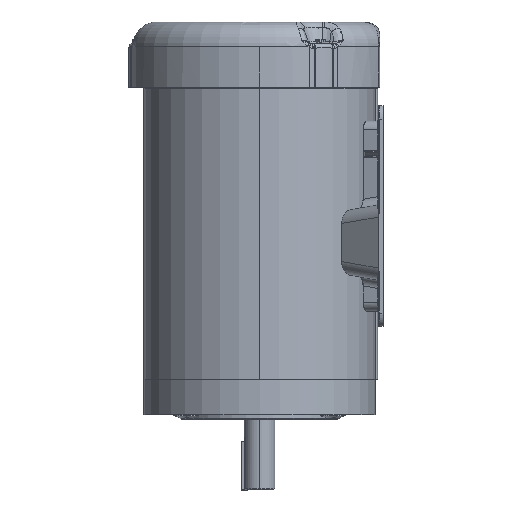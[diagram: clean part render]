
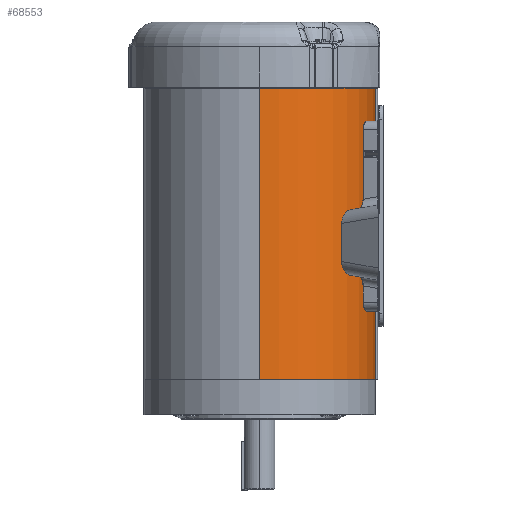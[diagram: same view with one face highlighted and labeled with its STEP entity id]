
A CAD part, left-side view. The second image highlights one B-rep face of the part: STEP entity #68553.
In plain terms, the highlighted cylindrical face has radius 83.21 mm (diameter 166.421 mm), a partial arc.
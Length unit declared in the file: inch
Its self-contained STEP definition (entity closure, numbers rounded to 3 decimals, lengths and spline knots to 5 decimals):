
#1517 = CARTESIAN_POINT ( 'NONE',  ( -3.276, 0., 11.37445 ) ) ;
#5328 = DIRECTION ( 'NONE',  ( 0., 0., -1. ) ) ;
#6295 = EDGE_LOOP ( 'NONE', ( #22627, #75002, #31725, #54849 ) ) ;
#7114 = VERTEX_POINT ( 'NONE', #34841 ) ;
#10385 = AXIS2_PLACEMENT_3D ( 'NONE', #44751, #5328, #65024 ) ;
#18035 = CARTESIAN_POINT ( 'NONE',  ( 0., 0., 3.12445 ) ) ;
#18500 = EDGE_CURVE ( 'NONE', #49157, #96412, #128459, .T. ) ;
#22627 = ORIENTED_EDGE ( 'NONE', *, *, #95684, .F. ) ;
#23498 = CARTESIAN_POINT ( 'NONE',  ( -0.09055, -3.27475, 11.56728 ) ) ;
#31725 = ORIENTED_EDGE ( 'NONE', *, *, #70558, .F. ) ;
#33417 = DIRECTION ( 'NONE',  ( 0., 0., -1. ) ) ;
#34797 = AXIS2_PLACEMENT_3D ( 'NONE', #56769, #75918, #52111 ) ;
#34841 = CARTESIAN_POINT ( 'NONE',  ( -0.09055, -3.27475, 11.37445 ) ) ;
#39280 = DIRECTION ( 'NONE',  ( 0., 0., 1. ) ) ;
#40670 = EDGE_CURVE ( 'NONE', #7114, #119418, #107055, .T. ) ;
#40806 = LINE ( 'NONE', #23498, #110410 ) ;
#44751 = CARTESIAN_POINT ( 'NONE',  ( 0., 0., 11.37445 ) ) ;
#49157 = VERTEX_POINT ( 'NONE', #65648 ) ;
#52111 = DIRECTION ( 'NONE',  ( 1., 0., 0. ) ) ;
#54849 = ORIENTED_EDGE ( 'NONE', *, *, #40670, .T. ) ;
#56769 = CARTESIAN_POINT ( 'NONE',  ( 0., 0., 3.12445 ) ) ;
#65024 = DIRECTION ( 'NONE',  ( -1., 0., 0. ) ) ;
#65648 = CARTESIAN_POINT ( 'NONE',  ( -0.09055, -3.27475, 3.12445 ) ) ;
#68553 = ADVANCED_FACE ( 'NONE', ( #73363 ), #96631, .T. ) ;
#70558 = EDGE_CURVE ( 'NONE', #7114, #49157, #40806, .T. ) ;
#73363 = FACE_OUTER_BOUND ( 'NONE', #6295, .T. ) ;
#73890 = VECTOR ( 'NONE', #39280, 39.37008 ) ;
#75002 = ORIENTED_EDGE ( 'NONE', *, *, #18500, .F. ) ;
#75918 = DIRECTION ( 'NONE',  ( 0., 0., 1. ) ) ;
#87695 = DIRECTION ( 'NONE',  ( -1., 0., 0. ) ) ;
#95684 = EDGE_CURVE ( 'NONE', #96412, #119418, #123477, .T. ) ;
#96412 = VERTEX_POINT ( 'NONE', #101327 ) ;
#96631 = CYLINDRICAL_SURFACE ( 'NONE', #34797, 3.276 ) ;
#96712 = DIRECTION ( 'NONE',  ( 0., 0., -1. ) ) ;
#101327 = CARTESIAN_POINT ( 'NONE',  ( -3.276, 0., 3.12445 ) ) ;
#107055 = CIRCLE ( 'NONE', #10385, 3.276 ) ;
#108464 = CARTESIAN_POINT ( 'NONE',  ( -3.276, 0., 3.12445 ) ) ;
#110410 = VECTOR ( 'NONE', #33417, 39.37008 ) ;
#117986 = AXIS2_PLACEMENT_3D ( 'NONE', #18035, #96712, #87695 ) ;
#119418 = VERTEX_POINT ( 'NONE', #1517 ) ;
#123477 = LINE ( 'NONE', #108464, #73890 ) ;
#128459 = CIRCLE ( 'NONE', #117986, 3.276 ) ;
